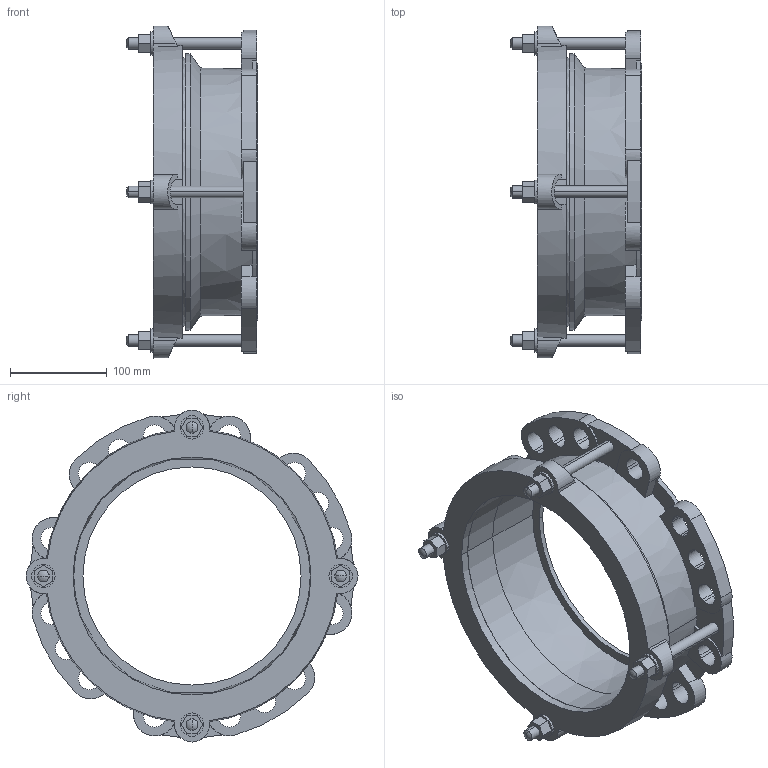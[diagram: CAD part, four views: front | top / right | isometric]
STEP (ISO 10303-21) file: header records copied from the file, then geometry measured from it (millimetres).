
FILE_DESCRIPTION((''),'2;1');
FILE_NAME('BIM_12419_8','2018-10-09T',('MReader'),(''),'CREO PARAMETRIC BY PTC INC, 2016130','CREO PARAMETRIC BY PTC INC, 2016130','');
FILE_SCHEMA(('CONFIG_CONTROL_DESIGN'));
Length unit declared in the file: millimetre
Products named in the file (1): BIM_12419_8
Bounding box: 136 x 342.5 x 342.5 mm (x, y, z)
Volume: 1693917.2 mm3; surface area: 353085.2 mm2
Topology: 1 solids, 1 shells, 256 faces, 704 edges, 458 vertices
Faces by surface type: plane 130, cylinder 104, cone 14, sphere 8
Entity records: 8416 total; most frequent: CARTESIAN_POINT 1658, DIRECTION 1426, ORIENTED_EDGE 1392, EDGE_CURVE 696, AXIS2_PLACEMENT_3D 522, VERTEX_POINT 458, VECTOR 382, LINE 382
